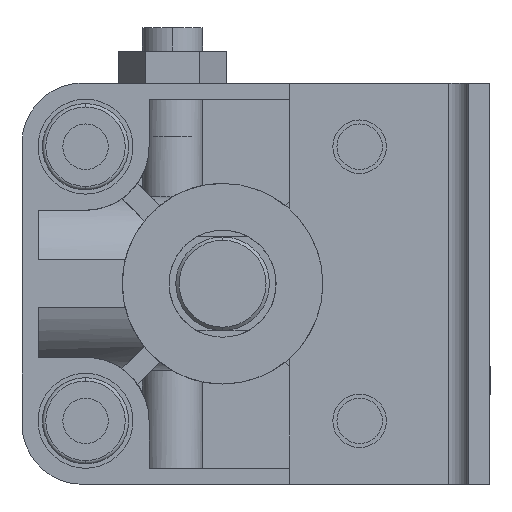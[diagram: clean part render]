
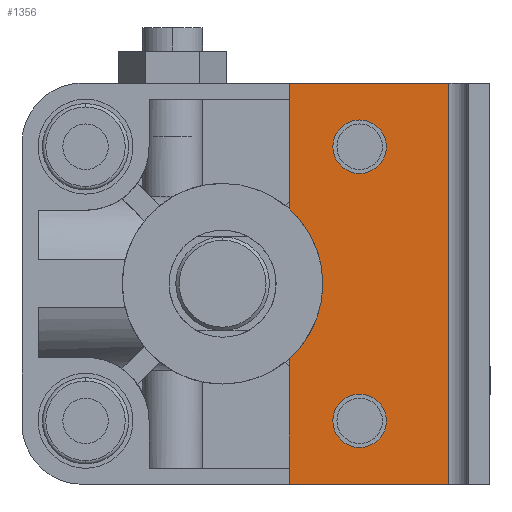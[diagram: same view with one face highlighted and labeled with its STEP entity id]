
A CAD part, left-side view. The second image highlights one B-rep face of the part: STEP entity #1356.
In plain terms, the highlighted planar face has unit normal (-1, 0, 0) as drawn and (0, 0, 1) by its records, which use the part's own axes.
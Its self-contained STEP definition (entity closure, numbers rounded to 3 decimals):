
#87 = CARTESIAN_POINT ( 'NONE',  ( 11.18, -10., 0. ) ) ;
#252 = LINE ( 'NONE', #7349, #4000 ) ;
#291 = LINE ( 'NONE', #7215, #8740 ) ;
#443 = VERTEX_POINT ( 'NONE', #10023 ) ;
#504 = CARTESIAN_POINT ( 'NONE',  ( 0., -10., 0. ) ) ;
#858 = CARTESIAN_POINT ( 'NONE',  ( -20.5, -20.5, 0. ) ) ;
#884 = LINE ( 'NONE', #5208, #6400 ) ;
#1356 = ADVANCED_FACE ( 'NONE', ( #8442, #7241, #4119 ), #5339, .T. ) ;
#1428 = ORIENTED_EDGE ( 'NONE', *, *, #1554, .T. ) ;
#1454 = DIRECTION ( 'NONE',  ( 1., 0., 0. ) ) ;
#1554 = EDGE_CURVE ( 'NONE', #9020, #3444, #3916, .T. ) ;
#1559 = DIRECTION ( 'NONE',  ( 0., 1., 0. ) ) ;
#1615 = EDGE_CURVE ( 'NONE', #8720, #7089, #7312, .T. ) ;
#1851 = DIRECTION ( 'NONE',  ( 1., 0., 0. ) ) ;
#1979 = CIRCLE ( 'NONE', #3902, 4. ) ;
#2136 = LINE ( 'NONE', #2310, #8415 ) ;
#2310 = CARTESIAN_POINT ( 'NONE',  ( 0., -10., 0. ) ) ;
#2336 = CARTESIAN_POINT ( 'NONE',  ( -11.18, -10., 0. ) ) ;
#2656 = EDGE_CURVE ( 'NONE', #9865, #4216, #291, .T. ) ;
#2718 = CARTESIAN_POINT ( 'NONE',  ( -30., -33.8, 0. ) ) ;
#2736 = ORIENTED_EDGE ( 'NONE', *, *, #2943, .F. ) ;
#2793 = EDGE_LOOP ( 'NONE', ( #9063, #5070 ) ) ;
#2826 = EDGE_CURVE ( 'NONE', #9865, #9020, #9877, .T. ) ;
#2943 = EDGE_CURVE ( 'NONE', #7870, #7224, #10007, .T. ) ;
#3179 = EDGE_CURVE ( 'NONE', #3444, #8634, #2136, .T. ) ;
#3297 = CARTESIAN_POINT ( 'NONE',  ( -20.5, -20.5, 0. ) ) ;
#3444 = VERTEX_POINT ( 'NONE', #2336 ) ;
#3658 = AXIS2_PLACEMENT_3D ( 'NONE', #3297, #4504, #7119 ) ;
#3666 = AXIS2_PLACEMENT_3D ( 'NONE', #2718, #7406, #1851 ) ;
#3902 = AXIS2_PLACEMENT_3D ( 'NONE', #10678, #8038, #4421 ) ;
#3916 = CIRCLE ( 'NONE', #6927, 15. ) ;
#4000 = VECTOR ( 'NONE', #6132, 1000. ) ;
#4119 = FACE_OUTER_BOUND ( 'NONE', #8533, .T. ) ;
#4216 = VERTEX_POINT ( 'NONE', #5991 ) ;
#4384 = DIRECTION ( 'NONE',  ( 1., 0., 0. ) ) ;
#4387 = CARTESIAN_POINT ( 'NONE',  ( 20.5, -20.5, 0. ) ) ;
#4421 = DIRECTION ( 'NONE',  ( 1., 0., 0. ) ) ;
#4502 = EDGE_CURVE ( 'NONE', #443, #8634, #884, .T. ) ;
#4504 = DIRECTION ( 'NONE',  ( 0., 0., 1. ) ) ;
#5070 = ORIENTED_EDGE ( 'NONE', *, *, #1615, .F. ) ;
#5208 = CARTESIAN_POINT ( 'NONE',  ( -30., -25., 0. ) ) ;
#5334 = ORIENTED_EDGE ( 'NONE', *, *, #8762, .F. ) ;
#5339 = PLANE ( 'NONE',  #3666 ) ;
#5413 = CARTESIAN_POINT ( 'NONE',  ( -16.5, -20.5, 0. ) ) ;
#5441 = CIRCLE ( 'NONE', #7998, 4. ) ;
#5770 = EDGE_CURVE ( 'NONE', #7089, #8720, #5441, .T. ) ;
#5859 = DIRECTION ( 'NONE',  ( -1., 0., 0. ) ) ;
#5940 = ORIENTED_EDGE ( 'NONE', *, *, #2656, .F. ) ;
#5991 = CARTESIAN_POINT ( 'NONE',  ( 30., -33.8, 0. ) ) ;
#6031 = ORIENTED_EDGE ( 'NONE', *, *, #9917, .F. ) ;
#6129 = AXIS2_PLACEMENT_3D ( 'NONE', #4387, #9439, #1454 ) ;
#6132 = DIRECTION ( 'NONE',  ( -1., 0., 0. ) ) ;
#6161 = CARTESIAN_POINT ( 'NONE',  ( -30., -10., 0. ) ) ;
#6205 = ORIENTED_EDGE ( 'NONE', *, *, #3179, .T. ) ;
#6335 = DIRECTION ( 'NONE',  ( 0., -1., 0. ) ) ;
#6400 = VECTOR ( 'NONE', #1559, 1000. ) ;
#6927 = AXIS2_PLACEMENT_3D ( 'NONE', #9241, #8006, #4384 ) ;
#7089 = VERTEX_POINT ( 'NONE', #5413 ) ;
#7119 = DIRECTION ( 'NONE',  ( 1., 0., 0. ) ) ;
#7215 = CARTESIAN_POINT ( 'NONE',  ( 30., -25., 0. ) ) ;
#7224 = VERTEX_POINT ( 'NONE', #7791 ) ;
#7241 = FACE_BOUND ( 'NONE', #7836, .T. ) ;
#7248 = ORIENTED_EDGE ( 'NONE', *, *, #4502, .F. ) ;
#7312 = CIRCLE ( 'NONE', #3658, 4. ) ;
#7349 = CARTESIAN_POINT ( 'NONE',  ( 0., -33.8, 0. ) ) ;
#7406 = DIRECTION ( 'NONE',  ( 0., 0., 1. ) ) ;
#7791 = CARTESIAN_POINT ( 'NONE',  ( 24.5, -20.5, 0. ) ) ;
#7836 = EDGE_LOOP ( 'NONE', ( #5334, #2736 ) ) ;
#7870 = VERTEX_POINT ( 'NONE', #10053 ) ;
#7998 = AXIS2_PLACEMENT_3D ( 'NONE', #858, #8284, #9698 ) ;
#8006 = DIRECTION ( 'NONE',  ( 0., 0., -1. ) ) ;
#8038 = DIRECTION ( 'NONE',  ( 0., 0., 1. ) ) ;
#8284 = DIRECTION ( 'NONE',  ( 0., 0., 1. ) ) ;
#8394 = CARTESIAN_POINT ( 'NONE',  ( -24.5, -20.5, 0. ) ) ;
#8415 = VECTOR ( 'NONE', #9079, 1000. ) ;
#8442 = FACE_BOUND ( 'NONE', #2793, .T. ) ;
#8465 = VECTOR ( 'NONE', #5859, 1000. ) ;
#8533 = EDGE_LOOP ( 'NONE', ( #1428, #6205, #7248, #6031, #5940, #10369 ) ) ;
#8634 = VERTEX_POINT ( 'NONE', #6161 ) ;
#8720 = VERTEX_POINT ( 'NONE', #8394 ) ;
#8740 = VECTOR ( 'NONE', #6335, 1000. ) ;
#8762 = EDGE_CURVE ( 'NONE', #7224, #7870, #1979, .T. ) ;
#9020 = VERTEX_POINT ( 'NONE', #87 ) ;
#9063 = ORIENTED_EDGE ( 'NONE', *, *, #5770, .F. ) ;
#9079 = DIRECTION ( 'NONE',  ( -1., 0., 0. ) ) ;
#9241 = CARTESIAN_POINT ( 'NONE',  ( 0., 0., 0. ) ) ;
#9439 = DIRECTION ( 'NONE',  ( 0., 0., 1. ) ) ;
#9698 = DIRECTION ( 'NONE',  ( 1., 0., 0. ) ) ;
#9865 = VERTEX_POINT ( 'NONE', #10403 ) ;
#9877 = LINE ( 'NONE', #504, #8465 ) ;
#9917 = EDGE_CURVE ( 'NONE', #4216, #443, #252, .T. ) ;
#10007 = CIRCLE ( 'NONE', #6129, 4. ) ;
#10023 = CARTESIAN_POINT ( 'NONE',  ( -30., -33.8, 0. ) ) ;
#10053 = CARTESIAN_POINT ( 'NONE',  ( 16.5, -20.5, 0. ) ) ;
#10369 = ORIENTED_EDGE ( 'NONE', *, *, #2826, .T. ) ;
#10403 = CARTESIAN_POINT ( 'NONE',  ( 30., -10., 0. ) ) ;
#10678 = CARTESIAN_POINT ( 'NONE',  ( 20.5, -20.5, 0. ) ) ;
